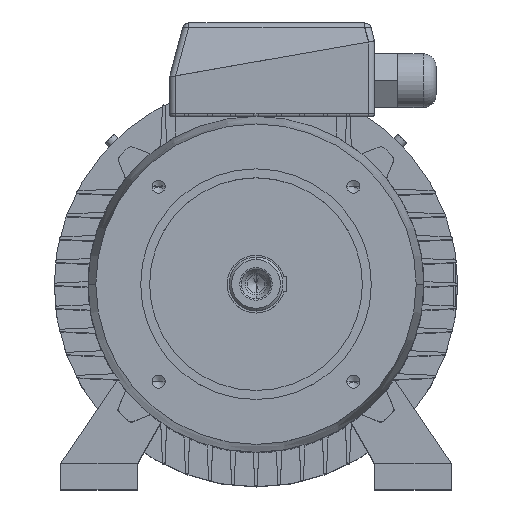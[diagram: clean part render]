
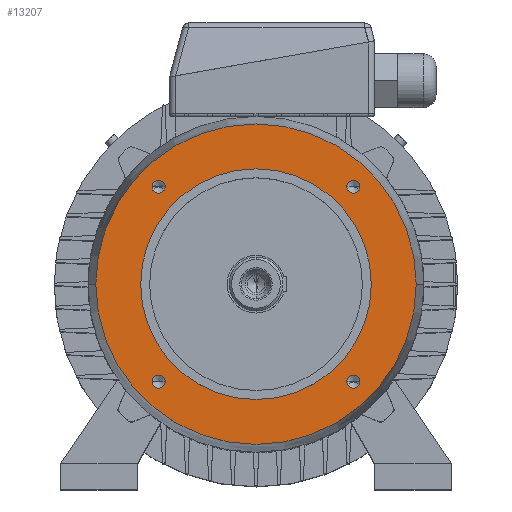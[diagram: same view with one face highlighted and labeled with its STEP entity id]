
A CAD part, top view. The second image highlights one B-rep face of the part: STEP entity #13207.
In plain terms, the highlighted planar face has unit normal (0, 0, 1).
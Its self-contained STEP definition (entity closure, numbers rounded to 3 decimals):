
#18 = CIRCLE ( 'NONE', #19, 5.1 ) ;
#19 = AXIS2_PLACEMENT_3D ( 'NONE', #20, #28, #29 ) ;
#20 = CARTESIAN_POINT ( 'NONE',  ( 76.014, -76.014, 75. ) ) ;
#28 = DIRECTION ( 'NONE',  ( 0., 0., 1. ) ) ;
#29 = DIRECTION ( 'NONE',  ( 1., 0., 0. ) ) ;
#175 = ORIENTED_EDGE ( 'NONE', *, *, #10092, .F. ) ;
#17046 = CARTESIAN_POINT ( 'NONE',  ( 81.114, 76.014, 75. ) ) ;
#703 = EDGE_CURVE ( 'NONE', #9064, #3227, #12486, .T. ) ;
#790 = CARTESIAN_POINT ( 'NONE',  ( 70.914, -76.014, 75. ) ) ;
#17193 = EDGE_CURVE ( 'NONE', #12922, #18255, #8426, .T. ) ;
#17221 = CIRCLE ( 'NONE', #17222, 5.1 ) ;
#17222 = AXIS2_PLACEMENT_3D ( 'NONE', #17223, #17224, #17225 ) ;
#17223 = CARTESIAN_POINT ( 'NONE',  ( 76.014, 76.014, 75. ) ) ;
#17224 = DIRECTION ( 'NONE',  ( 0., 0., 1. ) ) ;
#17225 = DIRECTION ( 'NONE',  ( 1., 0., 0. ) ) ;
#17236 = EDGE_LOOP ( 'NONE', ( #11816, #9023 ) ) ;
#875 = VERTEX_POINT ( 'NONE', #12738 ) ;
#17359 = CIRCLE ( 'NONE', #17360, 5.1 ) ;
#17360 = AXIS2_PLACEMENT_3D ( 'NONE', #17361, #17362, #17363 ) ;
#17361 = CARTESIAN_POINT ( 'NONE',  ( -76.014, -76.014, 75. ) ) ;
#17362 = DIRECTION ( 'NONE',  ( 0., 0., 1. ) ) ;
#17363 = DIRECTION ( 'NONE',  ( 1., 0., 0. ) ) ;
#17437 = ORIENTED_EDGE ( 'NONE', *, *, #6396, .F. ) ;
#1134 = EDGE_CURVE ( 'NONE', #5873, #12091, #12912, .T. ) ;
#1156 = EDGE_CURVE ( 'NONE', #2236, #875, #12933, .T. ) ;
#1385 = EDGE_CURVE ( 'NONE', #9829, #10924, #13093, .T. ) ;
#18074 = ORIENTED_EDGE ( 'NONE', *, *, #1156, .F. ) ;
#1833 = ORIENTED_EDGE ( 'NONE', *, *, #1385, .F. ) ;
#18255 = VERTEX_POINT ( 'NONE', #9270 ) ;
#1948 = ORIENTED_EDGE ( 'NONE', *, *, #17193, .T. ) ;
#2236 = VERTEX_POINT ( 'NONE', #13849 ) ;
#18701 = EDGE_CURVE ( 'NONE', #875, #2236, #9688, .T. ) ;
#18856 = CIRCLE ( 'NONE', #18857, 90. ) ;
#18857 = AXIS2_PLACEMENT_3D ( 'NONE', #18864, #18865, #18866 ) ;
#18864 = CARTESIAN_POINT ( 'NONE',  ( 0., 0., 75. ) ) ;
#18865 = DIRECTION ( 'NONE',  ( 0., 0., 1. ) ) ;
#18866 = DIRECTION ( 'NONE',  ( 1., 0., 0. ) ) ;
#2578 = EDGE_LOOP ( 'NONE', ( #1948, #9304 ) ) ;
#19051 = CIRCLE ( 'NONE', #19052, 125. ) ;
#19052 = AXIS2_PLACEMENT_3D ( 'NONE', #19053, #19054, #19055 ) ;
#19053 = CARTESIAN_POINT ( 'NONE',  ( 0., 0., 75. ) ) ;
#19054 = DIRECTION ( 'NONE',  ( 0., 0., 1. ) ) ;
#19055 = DIRECTION ( 'NONE',  ( 1., 0., 0. ) ) ;
#19156 = ORIENTED_EDGE ( 'NONE', *, *, #18701, .F. ) ;
#19211 = CARTESIAN_POINT ( 'NONE',  ( -70.914, -76.014, 75. ) ) ;
#3227 = VERTEX_POINT ( 'NONE', #14555 ) ;
#19839 = CARTESIAN_POINT ( 'NONE',  ( 81.114, -76.014, 75. ) ) ;
#19977 = EDGE_LOOP ( 'NONE', ( #19156, #18074 ) ) ;
#4055 = CARTESIAN_POINT ( 'NONE',  ( 70.914, 76.014, 75. ) ) ;
#4951 = CARTESIAN_POINT ( 'NONE',  ( 125., 0., 75. ) ) ;
#5300 = FACE_BOUND ( 'NONE', #12923, .T. ) ;
#5301 = FACE_BOUND ( 'NONE', #11817, .T. ) ;
#5302 = FACE_BOUND ( 'NONE', #17236, .T. ) ;
#5303 = FACE_OUTER_BOUND ( 'NONE', #2578, .T. ) ;
#5304 = FACE_BOUND ( 'NONE', #8572, .T. ) ;
#5305 = FACE_BOUND ( 'NONE', #19977, .T. ) ;
#5306 = PLANE ( 'NONE',  #5307 ) ;
#5307 = AXIS2_PLACEMENT_3D ( 'NONE', #5308, #5309, #5314 ) ;
#5308 = CARTESIAN_POINT ( 'NONE',  ( 0., 125., 75. ) ) ;
#5309 = DIRECTION ( 'NONE',  ( 0., 0., -1. ) ) ;
#5314 = DIRECTION ( 'NONE',  ( -1., 0., 0. ) ) ;
#5477 = ORIENTED_EDGE ( 'NONE', *, *, #6135, .F. ) ;
#5873 = VERTEX_POINT ( 'NONE', #17046 ) ;
#6135 = EDGE_CURVE ( 'NONE', #12091, #5873, #17221, .T. ) ;
#6396 = EDGE_CURVE ( 'NONE', #3227, #9064, #17359, .T. ) ;
#6838 = CARTESIAN_POINT ( 'NONE',  ( -90., 0., 75. ) ) ;
#7109 = CARTESIAN_POINT ( 'NONE',  ( 90., 0., 75. ) ) ;
#7242 = CIRCLE ( 'NONE', #7243, 90. ) ;
#7243 = AXIS2_PLACEMENT_3D ( 'NONE', #7244, #7245, #7246 ) ;
#7244 = CARTESIAN_POINT ( 'NONE',  ( 0., 0., 75. ) ) ;
#7245 = DIRECTION ( 'NONE',  ( 0., 0., 1. ) ) ;
#7246 = DIRECTION ( 'NONE',  ( 1., 0., 0. ) ) ;
#8426 = CIRCLE ( 'NONE', #8427, 125. ) ;
#8427 = AXIS2_PLACEMENT_3D ( 'NONE', #8433, #8434, #8435 ) ;
#8433 = CARTESIAN_POINT ( 'NONE',  ( 0., 0., 75. ) ) ;
#8434 = DIRECTION ( 'NONE',  ( 0., 0., 1. ) ) ;
#8435 = DIRECTION ( 'NONE',  ( 1., 0., 0. ) ) ;
#8571 = EDGE_CURVE ( 'NONE', #15009, #15269, #18856, .T. ) ;
#8572 = EDGE_LOOP ( 'NONE', ( #1833, #175 ) ) ;
#8865 = EDGE_CURVE ( 'NONE', #18255, #12922, #19051, .T. ) ;
#9023 = ORIENTED_EDGE ( 'NONE', *, *, #8571, .F. ) ;
#9064 = VERTEX_POINT ( 'NONE', #19211 ) ;
#9270 = CARTESIAN_POINT ( 'NONE',  ( -125., 0., 75. ) ) ;
#9304 = ORIENTED_EDGE ( 'NONE', *, *, #8865, .T. ) ;
#9688 = CIRCLE ( 'NONE', #9689, 5.1 ) ;
#9689 = AXIS2_PLACEMENT_3D ( 'NONE', #9690, #9691, #9700 ) ;
#9690 = CARTESIAN_POINT ( 'NONE',  ( -76.014, 76.014, 75. ) ) ;
#9691 = DIRECTION ( 'NONE',  ( 0., 0., 1. ) ) ;
#9700 = DIRECTION ( 'NONE',  ( 1., 0., 0. ) ) ;
#9779 = ORIENTED_EDGE ( 'NONE', *, *, #703, .F. ) ;
#9829 = VERTEX_POINT ( 'NONE', #19839 ) ;
#10092 = EDGE_CURVE ( 'NONE', #10924, #9829, #18, .T. ) ;
#10924 = VERTEX_POINT ( 'NONE', #790 ) ;
#11816 = ORIENTED_EDGE ( 'NONE', *, *, #15548, .F. ) ;
#11817 = EDGE_LOOP ( 'NONE', ( #9779, #17437 ) ) ;
#12091 = VERTEX_POINT ( 'NONE', #4055 ) ;
#12092 = ORIENTED_EDGE ( 'NONE', *, *, #1134, .F. ) ;
#12486 = CIRCLE ( 'NONE', #12487, 5.1 ) ;
#12487 = AXIS2_PLACEMENT_3D ( 'NONE', #12488, #12489, #12500 ) ;
#12488 = CARTESIAN_POINT ( 'NONE',  ( -76.014, -76.014, 75. ) ) ;
#12489 = DIRECTION ( 'NONE',  ( 0., 0., 1. ) ) ;
#12500 = DIRECTION ( 'NONE',  ( 1., 0., 0. ) ) ;
#12738 = CARTESIAN_POINT ( 'NONE',  ( -70.914, 76.014, 75. ) ) ;
#12912 = CIRCLE ( 'NONE', #12913, 5.1 ) ;
#12913 = AXIS2_PLACEMENT_3D ( 'NONE', #12914, #12915, #12916 ) ;
#12914 = CARTESIAN_POINT ( 'NONE',  ( 76.014, 76.014, 75. ) ) ;
#12915 = DIRECTION ( 'NONE',  ( 0., 0., 1. ) ) ;
#12916 = DIRECTION ( 'NONE',  ( 1., 0., 0. ) ) ;
#12922 = VERTEX_POINT ( 'NONE', #4951 ) ;
#12923 = EDGE_LOOP ( 'NONE', ( #12092, #5477 ) ) ;
#12933 = CIRCLE ( 'NONE', #12934, 5.1 ) ;
#12934 = AXIS2_PLACEMENT_3D ( 'NONE', #12935, #12936, #12937 ) ;
#12935 = CARTESIAN_POINT ( 'NONE',  ( -76.014, 76.014, 75. ) ) ;
#12936 = DIRECTION ( 'NONE',  ( 0., 0., 1. ) ) ;
#12937 = DIRECTION ( 'NONE',  ( 1., 0., 0. ) ) ;
#13093 = CIRCLE ( 'NONE', #13094, 5.1 ) ;
#13094 = AXIS2_PLACEMENT_3D ( 'NONE', #13095, #13096, #13097 ) ;
#13095 = CARTESIAN_POINT ( 'NONE',  ( 76.014, -76.014, 75. ) ) ;
#13096 = DIRECTION ( 'NONE',  ( 0., 0., 1. ) ) ;
#13097 = DIRECTION ( 'NONE',  ( 1., 0., 0. ) ) ;
#13207 = ADVANCED_FACE ( 'NONE', ( #5300, #5301, #5302, #5303, #5304, #5305 ), #5306, .F. ) ;
#13849 = CARTESIAN_POINT ( 'NONE',  ( -81.114, 76.014, 75. ) ) ;
#14555 = CARTESIAN_POINT ( 'NONE',  ( -81.114, -76.014, 75. ) ) ;
#15009 = VERTEX_POINT ( 'NONE', #6838 ) ;
#15269 = VERTEX_POINT ( 'NONE', #7109 ) ;
#15548 = EDGE_CURVE ( 'NONE', #15269, #15009, #7242, .T. ) ;
